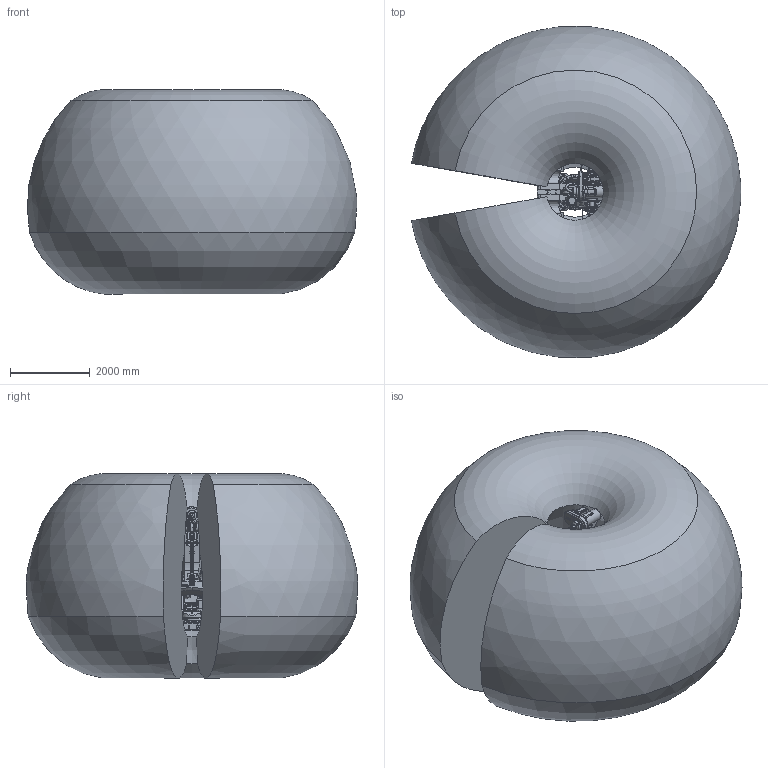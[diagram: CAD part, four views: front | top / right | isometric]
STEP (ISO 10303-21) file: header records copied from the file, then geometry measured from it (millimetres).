
FILE_DESCRIPTION(/* description */ (''),/* implementation_level */ '2;1');
FILE_NAME(/* name */ 'IRB8700-MH6_550-420_IRC5_STEP_c.stp',/* time_stamp */ '2023-10-26T08:50:46+08:00',/* author */ ('CNPEHE'),/* organization */ (''),/* preprocessor_version */ 'ST-DEVELOPER v19.2',/* originating_system */ 'Autodesk Inventor 2023',/* authorisation */ '');
FILE_SCHEMA (('AUTOMOTIVE_DESIGN { 1 0 10303 214 3 1 1 }'));
Length unit declared in the file: millimetre
Products named in the file (18): Assembly1; IRB8700_550-420_IRC5_WORKING_AREA; IRB8700-MH6_550-420_IRC5_rev00_BAL-A-LEFT_CAD; IRB8700-MH6_550-420_IRC5_rev00_BAL-A-RIGHT_CAD; IRB8700-MH6_550-420_IRC5_rev00_BAL-B-LEFT_CAD; IRB8700-MH6_550-420_IRC5_rev00_BAL-B-RIGHT_CAD; IRB8700-MH6_550-420_IRC5_rev00_LINK1_CAD; IRB8700-MH6_550-420_IRC5_rev00_LINK2_CAD; IRB8700-MH6_550-420_IRC5_rev00_LINK3_CABLE; IRB8700-MH6_550-420_IRC5_rev00_LINK3_CAD; IRB8700-MH6_550-420_IRC5_rev00_LINK4_CABLE; IRB8700-MH6_550-420_IRC5_rev00_LINK4_CAD; IRB8700-MH6_550-420_IRC5_rev00_LINK5_CABLE; IRB8700-MH6_550-420_IRC5_rev00_LINK5_CAD; IRB8700-MH6_550-420_IRC5_rev00_LINK6_CAD; IRB8700-MH6_550-420_IRC5_rev00_LINKARM_CAD; IRB8700-MH6_550-420_IRC5_rev00_LINKBAR_CAD; IRB8700-MH6_550-420_IRC5_rev01_BASE_CAD
Assembly tree (17 placements, depth 2):
  Assembly1
    IRB8700_550-420_IRC5_WORKING_AREA
    IRB8700-MH6_550-420_IRC5_rev00_BAL-A-LEFT_CAD
    IRB8700-MH6_550-420_IRC5_rev00_BAL-A-RIGHT_CAD
    IRB8700-MH6_550-420_IRC5_rev00_BAL-B-LEFT_CAD
    IRB8700-MH6_550-420_IRC5_rev00_BAL-B-RIGHT_CAD
    IRB8700-MH6_550-420_IRC5_rev00_LINK1_CAD
    IRB8700-MH6_550-420_IRC5_rev00_LINK2_CAD
    IRB8700-MH6_550-420_IRC5_rev00_LINK3_CABLE
    IRB8700-MH6_550-420_IRC5_rev00_LINK3_CAD
    IRB8700-MH6_550-420_IRC5_rev00_LINK4_CABLE
    IRB8700-MH6_550-420_IRC5_rev00_LINK4_CAD
    IRB8700-MH6_550-420_IRC5_rev00_LINK5_CABLE
    IRB8700-MH6_550-420_IRC5_rev00_LINK5_CAD
    IRB8700-MH6_550-420_IRC5_rev00_LINK6_CAD
    IRB8700-MH6_550-420_IRC5_rev00_LINKARM_CAD
    IRB8700-MH6_550-420_IRC5_rev00_LINKBAR_CAD
    IRB8700-MH6_550-420_IRC5_rev01_BASE_CAD
Bounding box: 8243.8 x 8290.59 x 5118.3 mm (x, y, z)
Volume: 192522538593.1 mm3; surface area: 262131030.4 mm2
Topology: 30 solids, 38 shells, 5459 faces, 13789 edges, 8966 vertices
Faces by surface type: plane 3131, cylinder 1236, cone 570, bspline 429, torus 88, sphere 5
Full cylindrical faces by diameter (mm): 5 x14, 5.45 x1, 6.5 x4, 6.6 x12, 6.8 x25, 7 x3, 8 x1, 8.5 x8, 8.6 x2, 8.8 x2, 10 x1, 10.2 x4, 11 x5, 11.05 x2, 11.2 x1, 11.5 x1, 12 x1, 12.9 x2, 13.3 x4, 14 x27, 15 x5, 16 x1, 17 x16, 18.3 x32, 18.5 x8, 19 x79, 20 x6, 21 x12, 22 x2, 22.114 x1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
Entity records: 292053 total; most frequent: CARTESIAN_POINT 162312, ORIENTED_EDGE 27492, DIRECTION 25673, EDGE_CURVE 13746, AXIS2_PLACEMENT_3D 9065, VERTEX_POINT 8966, LINE 7543, VECTOR 7543
